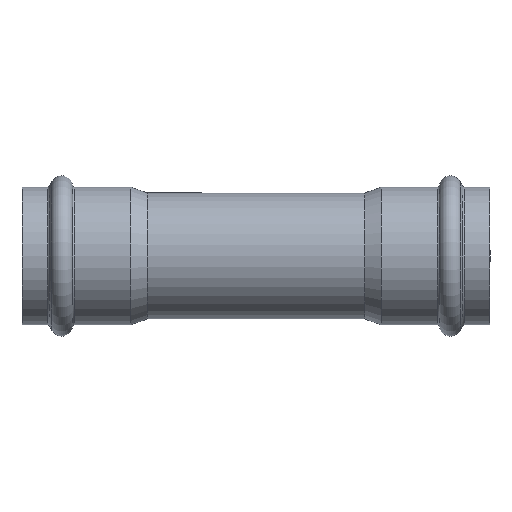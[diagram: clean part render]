
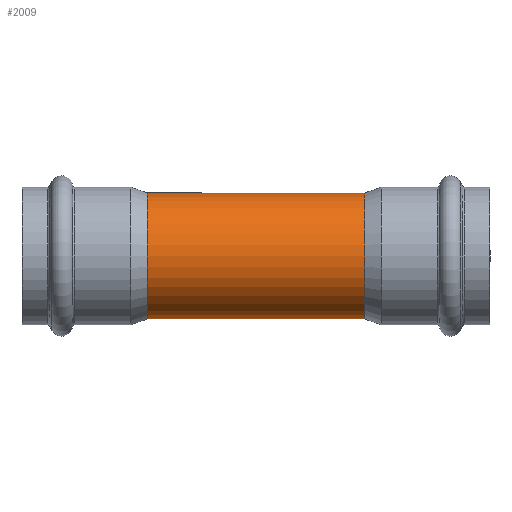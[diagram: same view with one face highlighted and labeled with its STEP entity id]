
A CAD part, front view. The second image highlights one B-rep face of the part: STEP entity #2009.
In plain terms, the highlighted cylindrical face has radius 17.5 mm (diameter 35 mm), a full revolution.
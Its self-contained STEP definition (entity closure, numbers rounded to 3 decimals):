
#1662=CARTESIAN_POINT('',(0.,14.921,-9.143));
#1663=VERTEX_POINT('',#1662);
#1903=CARTESIAN_POINT('',(0.,14.921,-9.143));
#1904=CARTESIAN_POINT('',(0.,14.921,-9.143));
#1905=CARTESIAN_POINT('',(0.,14.921,-9.143));
#1906=CARTESIAN_POINT('',(0.,14.921,-9.143));
#1907=CARTESIAN_POINT('',(-0.707,14.921,-9.143));
#1908=CARTESIAN_POINT('',(-1.764,14.996,-9.024));
#1909=CARTESIAN_POINT('',(-3.116,15.223,-8.635));
#1910=CARTESIAN_POINT('',(-4.393,15.514,-8.109));
#1911=CARTESIAN_POINT('',(-5.565,15.88,-7.381));
#1912=CARTESIAN_POINT('',(-6.588,16.262,-6.48));
#1913=CARTESIAN_POINT('',(-7.346,16.573,-5.649));
#1914=CARTESIAN_POINT('',(-8.065,16.894,-4.62));
#1915=CARTESIAN_POINT('',(-8.673,17.184,-3.394));
#1916=CARTESIAN_POINT('',(-9.095,17.395,-2.072));
#1917=CARTESIAN_POINT('',(-9.309,17.504,-0.699));
#1918=CARTESIAN_POINT('',(-9.309,17.505,0.697));
#1919=CARTESIAN_POINT('',(-9.095,17.395,2.07));
#1920=CARTESIAN_POINT('',(-8.744,17.219,3.174));
#1921=CARTESIAN_POINT('',(-8.367,17.038,4.011));
#1922=CARTESIAN_POINT('',(-7.717,16.734,5.208));
#1923=CARTESIAN_POINT('',(-6.695,16.288,6.457));
#1924=CARTESIAN_POINT('',(-5.274,15.785,7.571));
#1925=CARTESIAN_POINT('',(-4.078,15.435,8.255));
#1926=CARTESIAN_POINT('',(-2.787,15.153,8.759));
#1927=CARTESIAN_POINT('',(-0.956,14.901,9.178));
#1928=CARTESIAN_POINT('',(0.955,14.901,9.178));
#1929=CARTESIAN_POINT('',(2.557,15.121,8.812));
#1930=CARTESIAN_POINT('',(3.436,15.295,8.505));
#1931=CARTESIAN_POINT('',(4.279,15.494,8.14));
#1932=CARTESIAN_POINT('',(5.275,15.785,7.572));
#1933=CARTESIAN_POINT('',(6.352,16.167,6.723));
#1934=CARTESIAN_POINT('',(7.281,16.544,5.742));
#1935=CARTESIAN_POINT('',(8.152,16.933,4.496));
#1936=CARTESIAN_POINT('',(8.731,17.213,3.251));
#1937=CARTESIAN_POINT('',(9.118,17.407,1.92));
#1938=CARTESIAN_POINT('',(9.309,17.505,0.7));
#1939=CARTESIAN_POINT('',(9.309,17.504,-0.697));
#1940=CARTESIAN_POINT('',(9.095,17.395,-2.069));
#1941=CARTESIAN_POINT('',(8.673,17.184,-3.396));
#1942=CARTESIAN_POINT('',(8.164,16.941,-4.42));
#1943=CARTESIAN_POINT('',(7.672,16.718,-5.182));
#1944=CARTESIAN_POINT('',(6.986,16.42,-6.091));
#1945=CARTESIAN_POINT('',(6.09,16.064,-6.967));
#1946=CARTESIAN_POINT('',(4.978,15.696,-7.745));
#1947=CARTESIAN_POINT('',(4.222,15.483,-8.16));
#1948=CARTESIAN_POINT('',(3.59,15.331,-8.44));
#1949=CARTESIAN_POINT('',(2.944,15.194,-8.685));
#1950=CARTESIAN_POINT('',(1.766,14.996,-9.024));
#1951=CARTESIAN_POINT('',(0.707,14.921,-9.143));
#1952=CARTESIAN_POINT('',(0.,14.921,-9.143));
#1953=B_SPLINE_CURVE_WITH_KNOTS('',3,(#1903,#1904,#1905,#1906,#1907,#1908,#1909,#1910,#1911,#1912,#1913,#1914,#1915,#1916,#1917,#1918,#1919,#1920,#1921,#1922,#1923,#1924,#1925,#1926,#1927,#1928,#1929,#1930,#1931,#1932,#1933,#1934,#1935,#1936,#1937,#1938,#1939,#1940,#1941,#1942,#1943,#1944,#1945,#1946,#1947,#1948,#1949,#1950,#1951,#1952),.UNSPECIFIED.,.T.,.U.,(4,3,1,1,1,1,1,1,1,1,1,1,1,1,1,1,1,1,1,1,1,1,1,1,1,1,1,1,1,1,1,1,1,1,1,1,1,1,1,1,1,1,1,1,1,4),(-5.543,-5.543,-5.345,-5.246,-5.147,-4.949,-4.85,-4.751,-4.619,-4.487,-4.355,-4.223,-4.091,-3.959,-3.827,-3.761,-3.695,-3.431,-3.299,-3.167,-3.035,-2.903,-2.639,-2.507,-2.441,-2.375,-2.243,-2.112,-1.98,-1.848,-1.672,-1.584,-1.452,-1.32,-1.188,-1.056,-0.924,-0.858,-0.792,-0.594,-0.495,-0.396,-0.346,-0.297,-0.198,0.),.UNSPECIFIED.);
#1954=EDGE_CURVE('',#1663,#1663,#1953,.T.);
#1979=CARTESIAN_POINT('',(15.135,0.,0.0));
#1980=DIRECTION('',(1.0,0.,0.0));
#1981=DIRECTION('',(0.0,1.0,0.0));
#1982=AXIS2_PLACEMENT_3D('',#1979,#1980,#1981);
#1983=CYLINDRICAL_SURFACE('',#1982,17.5);
#1984=CARTESIAN_POINT('',(30.271,17.5,0.0));
#1985=VERTEX_POINT('',#1984);
#1986=CARTESIAN_POINT('',(30.271,0.,0.0));
#1987=DIRECTION('',(1.0,0.0,0.0));
#1988=DIRECTION('',(0.0,1.0,0.0));
#1989=AXIS2_PLACEMENT_3D('',#1986,#1987,#1988);
#1990=CIRCLE('',#1989,17.5);
#1991=EDGE_CURVE('',#1985,#1985,#1990,.T.);
#1992=ORIENTED_EDGE('',*,*,#1991,.F.);
#1993=EDGE_LOOP('',(#1992));
#1994=FACE_OUTER_BOUND('',#1993,.T.);
#1995=CARTESIAN_POINT('',(-30.271,17.5,0.0));
#1996=VERTEX_POINT('',#1995);
#1997=CARTESIAN_POINT('',(-30.271,0.,0.0));
#1998=DIRECTION('',(1.0,0.0,0.0));
#1999=DIRECTION('',(0.0,1.0,0.0));
#2000=AXIS2_PLACEMENT_3D('',#1997,#1998,#1999);
#2001=CIRCLE('',#2000,17.5);
#2002=EDGE_CURVE('',#1996,#1996,#2001,.T.);
#2003=ORIENTED_EDGE('',*,*,#2002,.T.);
#2004=EDGE_LOOP('',(#2003));
#2005=FACE_BOUND('',#2004,.T.);
#2006=ORIENTED_EDGE('',*,*,#1954,.F.);
#2007=EDGE_LOOP('',(#2006));
#2008=FACE_BOUND('',#2007,.T.);
#2009=ADVANCED_FACE('',(#1994,#2005,#2008),#1983,.T.);
